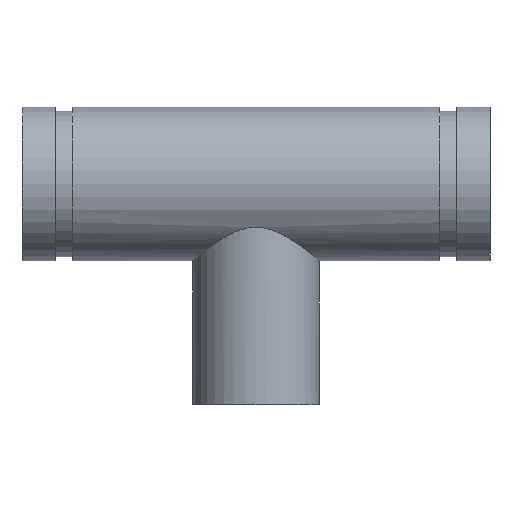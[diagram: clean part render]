
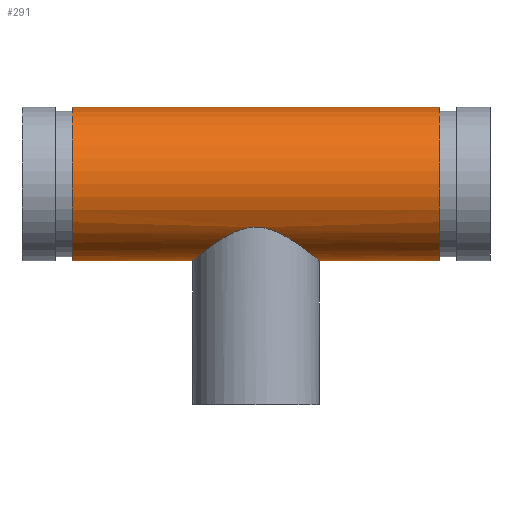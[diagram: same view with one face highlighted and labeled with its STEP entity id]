
A CAD part, top view. The second image highlights one B-rep face of the part: STEP entity #291.
In plain terms, the highlighted cylindrical face has radius 36.513 mm (diameter 73.025 mm), a full revolution.
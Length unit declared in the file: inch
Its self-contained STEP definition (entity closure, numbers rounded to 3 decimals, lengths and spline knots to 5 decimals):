
#45=B_SPLINE_CURVE_WITH_KNOTS('',3,(#511,#512,#513,#514,#515,#516,#517,
#518,#519,#520,#521,#522,#523,#524,#525,#526,#527,#528,#529,#530,#531,#532,
#533,#534,#535,#536,#537,#538,#539,#540,#541,#542,#543,#544,#545,#546,#547,
#548,#549,#550,#551,#552,#553,#554,#555,#556,#557,#558,#559,#560),
 .UNSPECIFIED.,.F.,.F.,(4,2,2,2,2,2,2,2,2,2,2,2,2,2,2,2,2,2,2,2,2,2,2,2,
4),(0.,0.62586,1.25171,1.87757,2.50343,
3.1053,3.70718,4.30906,4.91093,5.51281,
6.11468,6.71656,7.31844,7.94429,8.57015,
9.19601,9.82186,10.44772,11.07358,11.69943,
12.32529,12.92717,13.52904,14.13092,14.73279),
 .UNSPECIFIED.);
#46=B_SPLINE_CURVE_WITH_KNOTS('',3,(#561,#562,#563,#564,#565,#566,#567,
#568,#569,#570,#571,#572,#573,#574,#575,#576,#577,#578),.UNSPECIFIED.,.F.,
 .F.,(4,2,2,2,2,2,2,2,4),(14.73279,15.33467,15.93655,
16.53842,17.1403,17.76616,18.39201,19.01787,
19.64373),.UNSPECIFIED.);
#51=LINE('',#508,#59);
#59=VECTOR('',#410,1.4375);
#67=CYLINDRICAL_SURFACE('',#338,1.4375);
#77=FACE_BOUND('',#108,.T.);
#88=FACE_OUTER_BOUND('',#107,.T.);
#107=EDGE_LOOP('',(#221,#222,#223,#224));
#108=EDGE_LOOP('',(#225,#226));
#121=CIRCLE('',#321,1.4375);
#132=CIRCLE('',#337,1.4375);
#141=VERTEX_POINT('',#476);
#152=VERTEX_POINT('',#505);
#153=VERTEX_POINT('',#509);
#154=VERTEX_POINT('',#510);
#165=EDGE_CURVE('',#141,#141,#121,.T.);
#178=EDGE_CURVE('',#152,#152,#132,.T.);
#179=EDGE_CURVE('',#152,#141,#51,.T.);
#180=EDGE_CURVE('',#153,#154,#45,.T.);
#181=EDGE_CURVE('',#154,#153,#46,.T.);
#221=ORIENTED_EDGE('',*,*,#178,.T.);
#222=ORIENTED_EDGE('',*,*,#179,.T.);
#223=ORIENTED_EDGE('',*,*,#165,.T.);
#224=ORIENTED_EDGE('',*,*,#179,.F.);
#225=ORIENTED_EDGE('',*,*,#180,.F.);
#226=ORIENTED_EDGE('',*,*,#181,.F.);
#291=ADVANCED_FACE('',(#88,#77),#67,.T.);
#321=AXIS2_PLACEMENT_3D('',#477,#372,#373);
#337=AXIS2_PLACEMENT_3D('',#506,#406,#407);
#338=AXIS2_PLACEMENT_3D('',#507,#408,#409);
#372=DIRECTION('center_axis',(-1.,0.,0.));
#373=DIRECTION('ref_axis',(0.,-1.,0.));
#406=DIRECTION('center_axis',(1.,0.,0.));
#407=DIRECTION('ref_axis',(0.,-1.,0.));
#408=DIRECTION('center_axis',(-1.,0.,0.));
#409=DIRECTION('ref_axis',(0.,-1.,0.));
#410=DIRECTION('',(1.,0.,0.));
#476=CARTESIAN_POINT('',(3.442,1.4375,0.));
#477=CARTESIAN_POINT('Origin',(3.442,0.,0.));
#505=CARTESIAN_POINT('',(-3.442,1.4375,0.));
#506=CARTESIAN_POINT('Origin',(-3.442,0.,0.));
#507=CARTESIAN_POINT('Origin',(4.38,0.,0.));
#508=CARTESIAN_POINT('',(4.38,1.4375,0.));
#509=CARTESIAN_POINT('',(0.,-0.81009,-1.1875));
#510=CARTESIAN_POINT('',(-1.1875,-1.4375,0.));
#511=CARTESIAN_POINT('Ctrl Pts',(0.,-0.81009,
-1.1875));
#512=CARTESIAN_POINT('Ctrl Pts',(0.08213,-0.81009,
-1.1875));
#513=CARTESIAN_POINT('Ctrl Pts',(0.16284,-0.82292,-1.17897));
#514=CARTESIAN_POINT('Ctrl Pts',(0.31863,-0.86729,-1.14672));
#515=CARTESIAN_POINT('Ctrl Pts',(0.39378,-0.8986,-1.12299));
#516=CARTESIAN_POINT('Ctrl Pts',(0.53659,-0.96971,-1.06219));
#517=CARTESIAN_POINT('Ctrl Pts',(0.60431,-1.0095,-1.02506));
#518=CARTESIAN_POINT('Ctrl Pts',(0.72999,-1.0894,-0.9397));
#519=CARTESIAN_POINT('Ctrl Pts',(0.78793,-1.12951,-0.89145));
#520=CARTESIAN_POINT('Ctrl Pts',(0.88947,-1.20258,-0.78991));
#521=CARTESIAN_POINT('Ctrl Pts',(0.9372,-1.23848,-0.7332));
#522=CARTESIAN_POINT('Ctrl Pts',(1.02293,-1.30456,-0.60789));
#523=CARTESIAN_POINT('Ctrl Pts',(1.06093,-1.33472,-0.53929));
#524=CARTESIAN_POINT('Ctrl Pts',(1.12308,-1.38464,-0.39383));
#525=CARTESIAN_POINT('Ctrl Pts',(1.14728,-1.40443,-0.31681));
#526=CARTESIAN_POINT('Ctrl Pts',(1.17949,-1.43086,-0.15939));
#527=CARTESIAN_POINT('Ctrl Pts',(1.1875,-1.4375,-0.07899));
#528=CARTESIAN_POINT('Ctrl Pts',(1.1875,-1.4375,0.07899));
#529=CARTESIAN_POINT('Ctrl Pts',(1.17949,-1.43086,0.15939));
#530=CARTESIAN_POINT('Ctrl Pts',(1.14728,-1.40443,0.31681));
#531=CARTESIAN_POINT('Ctrl Pts',(1.12308,-1.38464,0.39383));
#532=CARTESIAN_POINT('Ctrl Pts',(1.06093,-1.33472,0.53929));
#533=CARTESIAN_POINT('Ctrl Pts',(1.02293,-1.30456,0.60789));
#534=CARTESIAN_POINT('Ctrl Pts',(0.9372,-1.23848,0.7332));
#535=CARTESIAN_POINT('Ctrl Pts',(0.88947,-1.20258,0.78991));
#536=CARTESIAN_POINT('Ctrl Pts',(0.78793,-1.12951,0.89145));
#537=CARTESIAN_POINT('Ctrl Pts',(0.72999,-1.0894,0.9397));
#538=CARTESIAN_POINT('Ctrl Pts',(0.60431,-1.0095,1.02506));
#539=CARTESIAN_POINT('Ctrl Pts',(0.53659,-0.96971,1.06219));
#540=CARTESIAN_POINT('Ctrl Pts',(0.39378,-0.8986,1.12299));
#541=CARTESIAN_POINT('Ctrl Pts',(0.31863,-0.86729,1.14672));
#542=CARTESIAN_POINT('Ctrl Pts',(0.16284,-0.82292,1.17897));
#543=CARTESIAN_POINT('Ctrl Pts',(0.08213,-0.81009,
1.1875));
#544=CARTESIAN_POINT('Ctrl Pts',(-0.08213,-0.81009,
1.1875));
#545=CARTESIAN_POINT('Ctrl Pts',(-0.16284,-0.82292,
1.17897));
#546=CARTESIAN_POINT('Ctrl Pts',(-0.31863,-0.86729,
1.14672));
#547=CARTESIAN_POINT('Ctrl Pts',(-0.39378,-0.8986,
1.12299));
#548=CARTESIAN_POINT('Ctrl Pts',(-0.53659,-0.96971,
1.06219));
#549=CARTESIAN_POINT('Ctrl Pts',(-0.60431,-1.0095,1.02506));
#550=CARTESIAN_POINT('Ctrl Pts',(-0.72999,-1.0894,0.9397));
#551=CARTESIAN_POINT('Ctrl Pts',(-0.78793,-1.12951,0.89145));
#552=CARTESIAN_POINT('Ctrl Pts',(-0.88947,-1.20258,0.78991));
#553=CARTESIAN_POINT('Ctrl Pts',(-0.9372,-1.23848,0.7332));
#554=CARTESIAN_POINT('Ctrl Pts',(-1.02293,-1.30456,0.60789));
#555=CARTESIAN_POINT('Ctrl Pts',(-1.06093,-1.33472,0.53929));
#556=CARTESIAN_POINT('Ctrl Pts',(-1.12308,-1.38464,0.39383));
#557=CARTESIAN_POINT('Ctrl Pts',(-1.14728,-1.40443,0.31681));
#558=CARTESIAN_POINT('Ctrl Pts',(-1.17949,-1.43086,0.15939));
#559=CARTESIAN_POINT('Ctrl Pts',(-1.1875,-1.4375,0.07899));
#560=CARTESIAN_POINT('Ctrl Pts',(-1.1875,-1.4375,0.));
#561=CARTESIAN_POINT('Ctrl Pts',(-1.1875,-1.4375,0.));
#562=CARTESIAN_POINT('Ctrl Pts',(-1.1875,-1.4375,-0.07899));
#563=CARTESIAN_POINT('Ctrl Pts',(-1.17949,-1.43086,-0.15939));
#564=CARTESIAN_POINT('Ctrl Pts',(-1.14728,-1.40443,-0.31681));
#565=CARTESIAN_POINT('Ctrl Pts',(-1.12308,-1.38464,-0.39383));
#566=CARTESIAN_POINT('Ctrl Pts',(-1.06093,-1.33472,-0.53929));
#567=CARTESIAN_POINT('Ctrl Pts',(-1.02293,-1.30456,-0.60789));
#568=CARTESIAN_POINT('Ctrl Pts',(-0.9372,-1.23848,-0.7332));
#569=CARTESIAN_POINT('Ctrl Pts',(-0.88947,-1.20258,-0.78991));
#570=CARTESIAN_POINT('Ctrl Pts',(-0.78793,-1.12951,-0.89145));
#571=CARTESIAN_POINT('Ctrl Pts',(-0.72999,-1.0894,-0.9397));
#572=CARTESIAN_POINT('Ctrl Pts',(-0.60431,-1.0095,-1.02506));
#573=CARTESIAN_POINT('Ctrl Pts',(-0.53659,-0.96971,
-1.06219));
#574=CARTESIAN_POINT('Ctrl Pts',(-0.39378,-0.8986,
-1.12299));
#575=CARTESIAN_POINT('Ctrl Pts',(-0.31863,-0.86729,
-1.14672));
#576=CARTESIAN_POINT('Ctrl Pts',(-0.16284,-0.82292,
-1.17897));
#577=CARTESIAN_POINT('Ctrl Pts',(-0.08213,-0.81009,
-1.1875));
#578=CARTESIAN_POINT('Ctrl Pts',(0.,-0.81009,
-1.1875));
